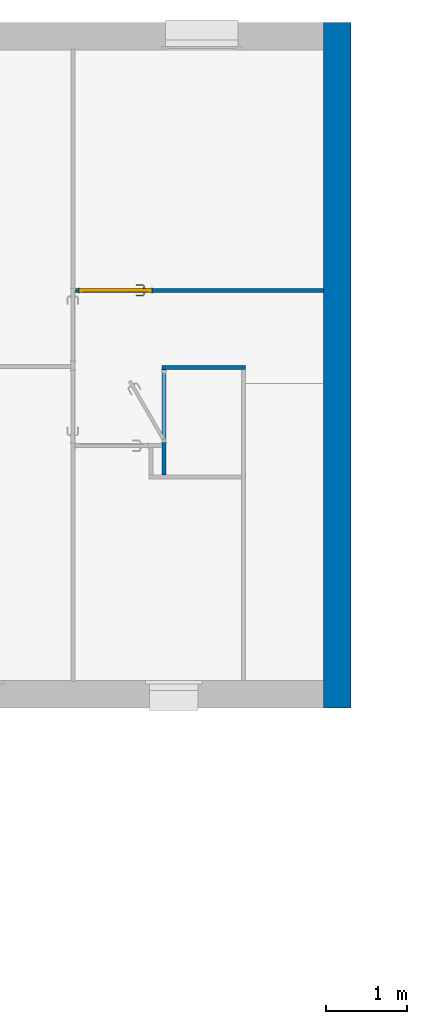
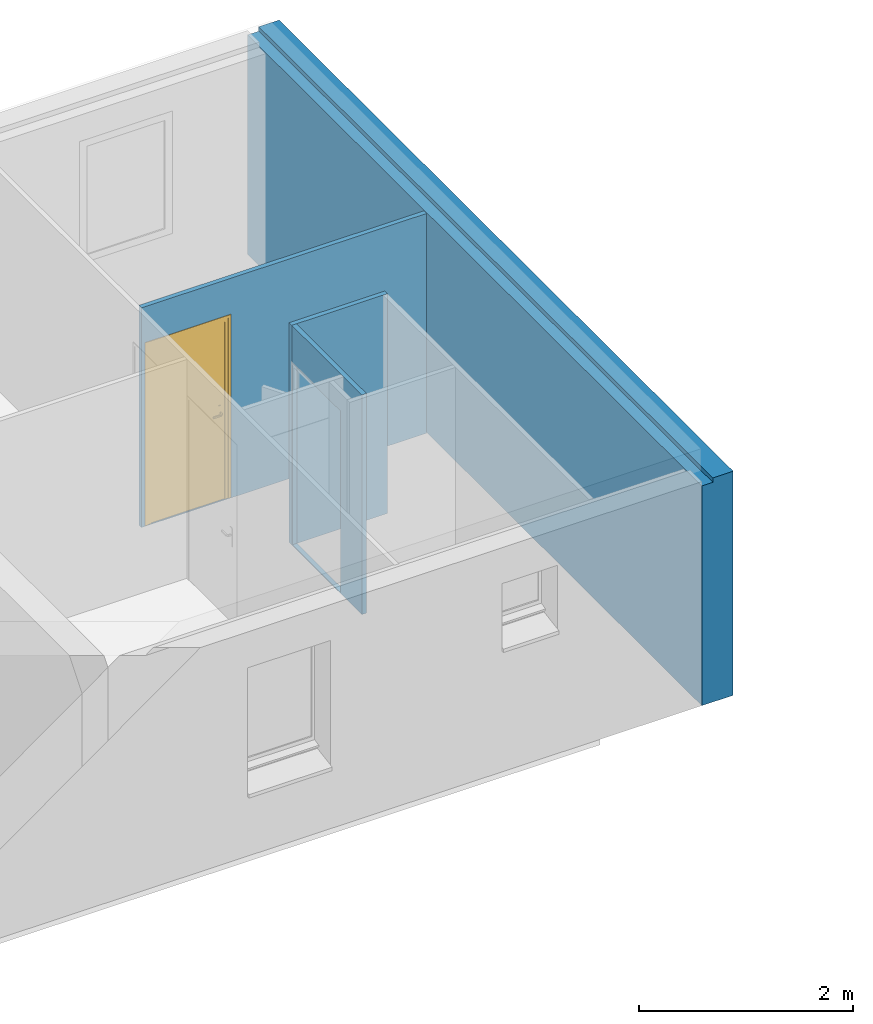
# One storey, part 10 of 13: 4 walls, 1 door, 2 openings.
"""IFC2X3 building model written with IfcOpenShell, lengths in metres."""

from ifc_helpers import new_model, entity, si_unit, converted_unit, derived_unit, direction, frame, frame_2d, origin, place, context, subcontext, project, spatial, polyline, rectangle, extrude, clip, bounded_halfspace, faceted_brep, source, transform, mapped, material, material_list, layer, layer_set, layer_usage, type_object, type_shapes, element, fill, save


model = new_model("IFC2X3")

# Units and contexts
model_context = context("Model", 3, precision=1e-05, world=origin(), true_north=direction((6.12303176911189e-17, 1.0)))
context_of_model = context(None, 3, precision=1e-05, world=origin(), true_north=direction((6.12303176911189e-17, 1.0)))
body_context = subcontext(model_context, "Body", "Model", "MODEL_VIEW")
ifc_project = project(units=[si_unit("LENGTHUNIT", "METRE"), si_unit("AREAUNIT", "SQUARE_METRE"), si_unit("VOLUMEUNIT", "CUBIC_METRE"), converted_unit("PLANEANGLEUNIT", "DEGREE", entity("IfcRatioMeasure", 0.0174532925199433), si_unit("PLANEANGLEUNIT", "RADIAN"), dimensions=[0, 0, 0, 0, 0, 0, 0]), si_unit("MASSUNIT", "GRAM", prefix="KILO"), si_unit("TIMEUNIT", "SECOND"), si_unit("FREQUENCYUNIT", "HERTZ"), si_unit("THERMODYNAMICTEMPERATUREUNIT", "DEGREE_CELSIUS"), derived_unit("THERMALTRANSMITTANCEUNIT", [(si_unit("MASSUNIT", "GRAM", prefix="KILO"), 1), (si_unit("THERMODYNAMICTEMPERATUREUNIT", "KELVIN"), -1), (si_unit("TIMEUNIT", "SECOND"), -3)]), derived_unit("VOLUMETRICFLOWRATEUNIT", [(si_unit("LENGTHUNIT", "METRE"), 3), (si_unit("TIMEUNIT", "SECOND"), -1)]), si_unit("ELECTRICCURRENTUNIT", "AMPERE"), si_unit("ELECTRICVOLTAGEUNIT", "VOLT"), si_unit("POWERUNIT", "WATT"), si_unit("FORCEUNIT", "NEWTON", prefix="KILO"), si_unit("ILLUMINANCEUNIT", "LUX"), si_unit("LUMINOUSFLUXUNIT", "LUMEN"), si_unit("LUMINOUSINTENSITYUNIT", "CANDELA"), derived_unit("USERDEFINED", [(si_unit("MASSUNIT", "GRAM", prefix="KILO"), -1), (si_unit("LENGTHUNIT", "METRE"), -2), (si_unit("TIMEUNIT", "SECOND"), 3), (si_unit("LUMINOUSFLUXUNIT", "LUMEN"), 1)]), derived_unit("LINEARVELOCITYUNIT", [(si_unit("LENGTHUNIT", "METRE"), 1), (si_unit("TIMEUNIT", "SECOND"), -1)]), si_unit("PRESSUREUNIT", "PASCAL"), derived_unit("USERDEFINED", [(si_unit("LENGTHUNIT", "METRE"), -2), (si_unit("MASSUNIT", "GRAM", prefix="KILO"), 1), (si_unit("TIMEUNIT", "SECOND"), -2)])], contexts=[model_context, context_of_model])

# Site, building, storey
site_placement = place(None, origin())
site = spatial("IfcSite", under=ifc_project, at=site_placement, Name="Surface", CompositionType="ELEMENT")
building_placement = place(site_placement, origin())
building = spatial("IfcBuilding", under=site, at=building_placement, CompositionType="ELEMENT")
storey_placement = place(building_placement, frame((0.0, 0.0, 2.74)))
storey = spatial("IfcBuildingStorey", under=building, at=storey_placement, Name="Plan étage", CompositionType="ELEMENT", Elevation=2.74)

# Wall, opening, door
ifc_material_1 = material(Name="Maçonnerie - Isolant(1)")
ifc_layer_1 = layer(ifc_material_1, 0.05)
ifc_layer_set_1 = layer_set([ifc_layer_1], Name="Mur de base:Int. plâtre 50 mm")
ifc_layer_usage_1 = layer_usage(ifc_layer_set_1, "AXIS2", "NEGATIVE", 0.025)
wall_type_1 = type_object("IfcWallType", Name="Mur de base:Int. plâtre 50 mm", PredefinedType="STANDARD", material=ifc_layer_set_1)
wall_1_placement = place(storey_placement, frame((-1.65608881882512, 2.35925578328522, -0.00999999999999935)))
wall_1 = element("IfcWallStandardCase", 1, at=wall_1_placement, inside=storey, type_object=wall_type_1, material=ifc_layer_usage_1, Name="Mur de base:Int. plâtre 50 mm", ObjectType="Mur de base:Int. plâtre 50 mm", context=body_context, shape_type="SweptSolid", body=[
    extrude(rectangle(XDim=3.07999999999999, YDim=0.05, at=frame_2d((1.53999999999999, 0.0), x_axis=(-1.0, 0.0))), origin(), (0.0, 0.0, 1.0), 2.51),
])
opening_1_placement = place(wall_1_placement, frame((0.0499999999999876, -0.025, 0.00999999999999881)))
opening_1 = element("IfcOpeningElement", 2, at=opening_1_placement, cuts=wall_1, Name="Int. Simple:PP (0.83m x 2.04m):1", ObjectType="Opening", context=body_context, shape_type="SweptSolid", body=[
    extrude(rectangle(XDim=2.075, YDim=0.9, at=frame_2d((1.0375, 0.45), x_axis=(1.0, 0.0))), frame((0.0, 0.0, 0.0), z_axis=(0.0, 1.0, 0.0), x_axis=(0.0, 0.0, 1.0)), (0.0, 0.0, 1.0), 0.05),
])
ifc_material_2 = material(Name="Finition Peinture - Blanc satiné")
ifc_material_3 = material(Name="Bois - Panneau de porte")
ifc_material_4 = material(Name="Bois - Cadre de porte")
ifc_material_list_1 = material_list([ifc_material_2, ifc_material_3, ifc_material_4])
ifc_material_list_2 = material_list([ifc_material_2, ifc_material_3, ifc_material_4])
door_style = type_object("IfcDoorStyle", Name="PP (0.83m x 2.04m)", ConstructionType="NOTDEFINED", OperationType="SINGLE_SWING_LEFT", ParameterTakesPrecedence=False, Sizeable=False, material=ifc_material_list_2)
shared_shape = source(origin(), body_context, "Body", "Brep", [
    faceted_brep([(0.105352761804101, -0.00500000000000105, 0.866003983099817), (0.115, -0.00500000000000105, 0.870000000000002), (0.114999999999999, -0.00500000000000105, 1.08), (0.1053527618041, -0.00500000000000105, 1.08399601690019), (0.0949999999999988, -0.00500000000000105, 1.08535898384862), (0.0846472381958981, -0.00500000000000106, 1.08399601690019), (0.0749999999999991, -0.00500000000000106, 1.08), (0.0750000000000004, -0.00500000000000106, 0.870000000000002), (0.0846472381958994, -0.00500000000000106, 0.866003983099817), (0.0950000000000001, -0.00500000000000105, 0.86464101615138), (0.1053527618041, 0.0, 1.08399601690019), (0.114999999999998, 0.0, 1.08), (0.115, 0.0, 0.870000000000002), (0.105352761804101, 0.0, 0.866003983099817), (0.0950000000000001, 0.0, 0.86464101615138), (0.0846472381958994, 0.0, 0.866003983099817), (0.0749999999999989, 0.0, 0.870000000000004), (0.0749999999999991, 0.0, 1.08), (0.0846472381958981, 0.0, 1.08399601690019), (0.0949999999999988, 0.0, 1.08535898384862)], [[[0, 1, 2, 3, 4, 5, 6, 7, 8, 9]], [[10, 11, 12, 13, 14, 15, 16, 17, 18, 19]], [[16, 15, 8, 7]], [[8, 15, 14, 9]], [[14, 13, 0, 9]], [[13, 12, 1, 0]], [[2, 1, 12, 11]], [[11, 10, 3, 2]], [[3, 10, 19, 4]], [[19, 18, 5, 4]], [[18, 17, 6, 5]], [[7, 6, 17, 16]]]),
    faceted_brep([(0.105352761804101, 0.0399999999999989, 0.866003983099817), (0.115, 0.0399999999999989, 0.870000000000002), (0.114999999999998, 0.0399999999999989, 1.08), (0.105352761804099, 0.0399999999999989, 1.08399601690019), (0.0949999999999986, 0.0399999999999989, 1.08535898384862), (0.084647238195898, 0.0399999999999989, 1.08399601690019), (0.0749999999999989, 0.0399999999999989, 1.08), (0.0750000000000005, 0.0399999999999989, 0.870000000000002), (0.0846472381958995, 0.0399999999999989, 0.866003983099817), (0.0950000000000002, 0.0399999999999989, 0.86464101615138), (0.105352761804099, 0.0449999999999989, 1.08399601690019), (0.114999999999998, 0.0449999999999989, 1.08), (0.115, 0.0449999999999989, 0.870000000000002), (0.105352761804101, 0.0449999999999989, 0.866003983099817), (0.0950000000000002, 0.0449999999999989, 0.86464101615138), (0.0846472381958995, 0.0449999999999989, 0.866003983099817), (0.0749999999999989, 0.0449999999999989, 0.870000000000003), (0.0749999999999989, 0.0449999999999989, 1.08), (0.084647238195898, 0.0449999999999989, 1.08399601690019), (0.0949999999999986, 0.0449999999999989, 1.08535898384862)], [[[0, 1, 2, 3, 4, 5, 6, 7, 8, 9]], [[10, 11, 12, 13, 14, 15, 16, 17, 18, 19]], [[11, 10, 3, 2]], [[3, 10, 19, 4]], [[19, 18, 5, 4]], [[18, 17, 6, 5]], [[7, 6, 17, 16]], [[16, 15, 8, 7]], [[8, 15, 14, 9]], [[14, 13, 0, 9]], [[13, 12, 1, 0]], [[2, 1, 12, 11]]]),
    faceted_brep([(0.0929747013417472, -0.00500000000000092, 1.00778044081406), (0.0970252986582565, -0.0050000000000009, 1.00778044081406), (0.101000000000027, -0.00500000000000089, 1.00699999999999), (0.101000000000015, -0.00500000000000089, 0.993000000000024), (0.0970252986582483, -0.0050000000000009, 0.992219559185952), (0.0929747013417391, -0.00500000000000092, 0.99221955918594), (0.0889999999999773, -0.00500000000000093, 0.992999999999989), (0.0889999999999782, -0.00500000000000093, 1.007), (0.0889999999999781, -0.0326509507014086, 1.007), (0.092974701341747, -0.0310045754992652, 1.00778044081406), (0.10902358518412, -0.0470534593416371, 1.00778044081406), (0.110701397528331, -0.0430028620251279, 1.00778044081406), (0.0970252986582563, -0.0293267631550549, 1.00778044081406), (0.101000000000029, -0.0276803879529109, 1.007), (0.101000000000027, -0.0276803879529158, 0.993000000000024), (0.0970252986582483, -0.0293267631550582, 0.992219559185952), (0.110701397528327, -0.0430028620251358, 0.992219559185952), (0.109023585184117, -0.047053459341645, 0.99221955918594), (0.0929747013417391, -0.0310045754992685, 0.99221955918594), (0.0889999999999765, -0.0326509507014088, 0.992999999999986), (0.107377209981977, -0.0510281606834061, 1.007), (0.112347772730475, -0.0390281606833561, 1.007), (0.112347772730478, -0.0390281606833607, 0.993000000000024), (0.107377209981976, -0.0510281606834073, 0.992999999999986), (0.195018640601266, -0.0510281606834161, 0.992999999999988), (0.195018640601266, -0.0470534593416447, 0.99221955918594), (0.195018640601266, -0.0430028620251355, 0.992219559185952), (0.195018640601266, -0.039028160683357, 0.993000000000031), (0.195018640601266, -0.0390281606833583, 1.007), (0.195018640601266, -0.0430028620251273, 1.00778044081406), (0.195018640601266, -0.0470534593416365, 1.00778044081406), (0.195018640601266, -0.0510281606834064, 1.00699999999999), (0.147307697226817, -0.0510281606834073, 1.007), (0.152860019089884, -0.045028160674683, 1.0078786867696), (0.15368320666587, -0.039028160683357, 1.007), (0.153683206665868, -0.0390281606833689, 0.993000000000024), (0.152860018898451, -0.0450281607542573, 0.992121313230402), (0.147307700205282, -0.0510281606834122, 0.992999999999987)], [[[0, 1, 2, 3, 4, 5, 6, 7]], [[8, 9, 0, 7]], [[9, 10, 11, 12, 1, 0]], [[12, 13, 2, 1]], [[3, 2, 13, 14]], [[14, 15, 4, 3]], [[15, 16, 17, 18, 5, 4]], [[18, 19, 6, 5]], [[7, 6, 19, 8]], [[20, 10, 9, 8]], [[11, 21, 13, 12]], [[14, 13, 21, 22]], [[22, 16, 15, 14]], [[17, 23, 19, 18]], [[8, 19, 23, 20]], [[24, 25, 26, 27, 28, 29, 30, 31]], [[32, 30, 33]], [[31, 30, 32]], [[10, 20, 32]], [[33, 34, 11]], [[21, 11, 34]], [[34, 29, 28]], [[30, 29, 33]], [[29, 34, 33]], [[10, 32, 33]], [[10, 33, 11]], [[22, 21, 34, 28, 27, 35]], [[35, 26, 36]], [[37, 36, 25]], [[22, 35, 16]], [[35, 27, 26]], [[24, 37, 25]], [[23, 17, 37]], [[37, 17, 36]], [[17, 16, 36]], [[16, 35, 36]], [[25, 36, 26]], [[20, 23, 37, 24, 31, 32]]]),
    faceted_brep([(0.0929747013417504, 0.0449999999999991, 1.00778044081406), (0.0889999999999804, 0.044999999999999, 1.007), (0.0889999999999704, 0.044999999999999, 0.992999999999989), (0.0929747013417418, 0.0449999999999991, 0.99221955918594), (0.0970252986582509, 0.0449999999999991, 0.992219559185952), (0.10100000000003, 0.0449999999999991, 0.993000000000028), (0.101000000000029, 0.0449999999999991, 1.007), (0.0970252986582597, 0.0449999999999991, 1.00778044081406), (0.10100000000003, 0.067485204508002, 0.993000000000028), (0.10100000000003, 0.0674852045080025, 1.007), (0.0970252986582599, 0.0691315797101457, 1.00778044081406), (0.110838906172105, 0.0829451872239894, 1.00778044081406), (0.109161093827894, 0.0869957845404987, 1.00778044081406), (0.0929747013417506, 0.070809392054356, 1.00778044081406), (0.0889999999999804, 0.0724557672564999, 1.007), (0.0889999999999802, 0.072455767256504, 0.992999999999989), (0.0929747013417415, 0.0708093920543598, 0.99221955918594), (0.109161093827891, 0.0869957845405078, 0.99221955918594), (0.110838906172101, 0.0829451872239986, 0.992219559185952), (0.0970252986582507, 0.0691315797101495, 0.992219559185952), (0.112485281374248, 0.0789704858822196, 0.993000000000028), (0.112485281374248, 0.0789704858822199, 1.007), (0.107514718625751, 0.0909704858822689, 1.007), (0.107514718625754, 0.090970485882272, 0.992999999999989), (0.195045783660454, 0.0789704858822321, 0.993000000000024), (0.195045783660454, 0.0829451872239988, 0.992219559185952), (0.195045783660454, 0.086995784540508, 0.99221955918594), (0.195045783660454, 0.0909704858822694, 0.992999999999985), (0.195045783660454, 0.0909704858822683, 1.007), (0.195045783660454, 0.0869957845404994, 1.00778044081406), (0.195045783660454, 0.0829451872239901, 1.00778044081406), (0.195045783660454, 0.0789704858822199, 1.007), (0.153765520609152, 0.0789704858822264, 0.993000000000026), (0.153765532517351, 0.0789704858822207, 1.007), (0.152942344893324, 0.0849704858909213, 1.0078786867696), (0.147445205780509, 0.0909704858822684, 1.007), (0.147445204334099, 0.0909704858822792, 0.992999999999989), (0.152942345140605, 0.0849704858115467, 0.992121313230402)], [[[0, 1, 2, 3, 4, 5, 6, 7]], [[6, 5, 8, 9]], [[9, 10, 7, 6]], [[10, 11, 12, 13, 0, 7]], [[13, 14, 1, 0]], [[2, 1, 14, 15]], [[15, 16, 3, 2]], [[16, 17, 18, 19, 4, 3]], [[19, 8, 5, 4]], [[9, 8, 20, 21]], [[21, 11, 10, 9]], [[12, 22, 14, 13]], [[15, 14, 22, 23]], [[23, 17, 16, 15]], [[18, 20, 8, 19]], [[24, 25, 26, 27, 28, 29, 30, 31]], [[21, 20, 32, 24, 31, 33]], [[33, 30, 34]], [[35, 34, 29]], [[21, 33, 11]], [[33, 31, 30]], [[28, 35, 29]], [[22, 12, 35]], [[35, 12, 34]], [[12, 11, 34]], [[11, 33, 34]], [[29, 34, 30]], [[22, 35, 28, 27, 36, 23]], [[36, 26, 37]], [[27, 26, 36]], [[17, 23, 36]], [[37, 32, 18]], [[20, 18, 32]], [[32, 25, 24]], [[26, 25, 37]], [[25, 32, 37]], [[17, 36, 37]], [[17, 37, 18]]]),
    faceted_brep([(0.034999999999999, 0.04, 2.04), (0.865, 0.04, 2.04), (0.864999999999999, 0.04, 0.0), (0.034999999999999, 0.04, 0.0), (0.034999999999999, 0.0, 2.04), (0.034999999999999, 0.0, 0.0), (0.864999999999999, 0.0, 0.0), (0.865, 0.0, 2.04)], [[[0, 1, 2, 3]], [[4, 5, 6, 7]], [[1, 0, 4, 7]], [[2, 1, 7, 6]], [[3, 2, 6, 5]], [[0, 3, 5, 4]]]),
    faceted_brep([(0.0, 0.0, 0.0), (0.0, 0.050000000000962, 0.0), (0.0499999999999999, 0.050000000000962, 0.0), (0.0499999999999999, 0.040000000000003, 0.0), (0.0349999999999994, 0.040000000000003, 0.0), (0.0349999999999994, 0.0, 0.0), (0.0, 0.0, 2.07500000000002), (0.0, 0.050000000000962, 2.07500000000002), (0.900000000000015, 0.050000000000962, 2.07500000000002), (0.900000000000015, 0.050000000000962, 0.0), (0.85, 0.050000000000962, 0.0), (0.85, 0.050000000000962, 2.025), (0.0500000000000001, 0.050000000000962, 2.025), (0.05, 0.040000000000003, 2.025), (0.85, 0.040000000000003, 2.025), (0.85, 0.040000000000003, 0.0), (0.865, 0.040000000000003, 0.0), (0.865, 0.040000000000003, 2.04), (0.0349999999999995, 0.040000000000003, 2.04), (0.0349999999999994, 0.0, 2.04), (0.865, 0.0, 2.04), (0.865, 0.0, 0.0), (0.900000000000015, 0.0, 0.0), (0.900000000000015, 0.0, 2.07500000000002)], [[[0, 1, 2, 3, 4, 5]], [[1, 0, 6, 7]], [[2, 1, 7, 8, 9, 10, 11, 12]], [[3, 2, 12, 13]], [[4, 3, 13, 14, 15, 16, 17, 18]], [[5, 4, 18, 19]], [[0, 5, 19, 20, 21, 22, 23, 6]], [[8, 23, 22, 9]], [[22, 21, 16, 15, 10, 9]], [[14, 11, 10, 15]], [[20, 17, 16, 21]], [[7, 6, 23, 8]], [[13, 12, 11, 14]], [[19, 18, 17, 20]]]),
    faceted_brep([(0.0149999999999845, 0.050000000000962, 0.0), (-0.0150000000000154, 0.050000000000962, 0.0), (-0.0150000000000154, 0.055000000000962, 0.0), (0.0149999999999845, 0.055000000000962, 0.0), (0.0149999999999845, 0.050000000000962, 2.06000000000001), (0.884999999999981, 0.050000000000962, 2.06000000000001), (0.88499999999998, 0.050000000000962, 0.0), (0.91499999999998, 0.050000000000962, 0.0), (0.91499999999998, 0.050000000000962, 2.09000000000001), (-0.0150000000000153, 0.050000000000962, 2.09000000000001), (-0.0150000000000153, 0.055000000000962, 2.09000000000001), (0.91499999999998, 0.055000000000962, 2.09000000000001), (0.91499999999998, 0.055000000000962, 0.0), (0.88499999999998, 0.055000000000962, 0.0), (0.88499999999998, 0.055000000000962, 2.06000000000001), (0.0149999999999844, 0.055000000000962, 2.06000000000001)], [[[0, 1, 2, 3]], [[1, 0, 4, 5, 6, 7, 8, 9]], [[2, 1, 9, 10]], [[3, 2, 10, 11, 12, 13, 14, 15]], [[0, 3, 15, 4]], [[6, 13, 12, 7]], [[5, 14, 13, 6]], [[11, 8, 7, 12]], [[10, 9, 8, 11]], [[4, 15, 14, 5]]]),
    faceted_brep([(-0.0150000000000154, -0.005, 0.0), (0.0149999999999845, -0.005, 0.0), (0.0149999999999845, -0.005, 2.06000000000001), (0.884999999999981, -0.005, 2.06000000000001), (0.88499999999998, -0.005, 0.0), (0.91499999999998, -0.005, 0.0), (0.91499999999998, -0.005, 2.09000000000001), (-0.0150000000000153, -0.005, 2.09000000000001), (-0.0150000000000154, 0.0, 0.0), (-0.0150000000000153, 0.0, 2.09000000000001), (0.0149999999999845, 0.0, 0.0), (0.91499999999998, 0.0, 2.09000000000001), (0.91499999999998, 0.0, 0.0), (0.88499999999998, 0.0, 0.0), (0.88499999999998, 0.0, 2.06000000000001), (0.0149999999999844, 0.0, 2.06000000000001)], [[[0, 1, 2, 3, 4, 5, 6, 7]], [[8, 0, 7, 9]], [[10, 8, 9, 11, 12, 13, 14, 15]], [[1, 10, 15, 2]], [[3, 14, 13, 4]], [[11, 6, 5, 12]], [[9, 7, 6, 11]], [[2, 15, 14, 3]], [[4, 13, 12, 5]], [[1, 0, 8, 10]]]),
])
type_shapes(door_style, [shared_shape])
door_placement = place(opening_1_placement, frame((0.9, 0.0500000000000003, 0.0), z_axis=(0.0, 0.0, 1.0), x_axis=(-1.0, 0.0, 0.0)))
door = element("IfcDoor", 3, at=door_placement, inside=storey, type_object=door_style, material=ifc_material_list_1, Name="Int. Simple:PP (0.83m x 2.04m)", ObjectType="PP (0.83m x 2.04m)", OverallHeight=2.075, OverallWidth=0.9, context=body_context, shape_type="MappedRepresentation", body=[
    mapped(shared_shape, transform((0.0, 0.0, 0.0), scale=1.0)),
])
fill(opening_1, door)

# Wall
ifc_layer_usage_2 = layer_usage(ifc_layer_set_1, "AXIS2", "NEGATIVE", 0.025)
wall_2_placement = place(storey_placement, frame((-0.581088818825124, 1.40925578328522, -0.00999999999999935)))
element("IfcWallStandardCase", 4, at=wall_2_placement, inside=storey, type_object=wall_type_1, material=ifc_layer_usage_2, Name="Mur de base:Int. plâtre 50 mm", ObjectType="Mur de base:Int. plâtre 50 mm", context=body_context, shape_type="SweptSolid", body=[
    extrude(rectangle(XDim=1.03499999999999, YDim=0.05, at=frame_2d((0.517499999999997, 0.0), x_axis=(-1.0, 0.0))), origin(), (0.0, 0.0, 1.0), 2.51),
])

# Wall, opening
ifc_layer_usage_3 = layer_usage(ifc_layer_set_1, "AXIS2", "NEGATIVE", 0.025)
wall_3_placement = place(storey_placement, frame((-0.556088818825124, 0.0742557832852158, -0.00999999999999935), z_axis=(0.0, 0.0, 1.0), x_axis=(0.0, 1.0, 0.0)))
wall_3 = element("IfcWallStandardCase", 5, at=wall_3_placement, inside=storey, type_object=wall_type_1, material=ifc_layer_usage_3, Name="Mur de base:Int. plâtre 50 mm", ObjectType="Mur de base:Int. plâtre 50 mm", context=body_context, shape_type="SweptSolid", body=[
    extrude(rectangle(XDim=1.31, YDim=0.05, at=frame_2d((0.655000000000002, 0.0), x_axis=(-1.0, 0.0))), origin(), (0.0, 0.0, 1.0), 2.51),
])
opening_2_placement = place(wall_3_placement, frame((0.400000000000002, -0.025, 0.00999999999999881)))
element("IfcOpeningElement", 6, at=opening_2_placement, cuts=wall_3, Name="Int. Simple:PP (0.83m x 2.04m):1", ObjectType="Opening", context=body_context, shape_type="SweptSolid", body=[
    extrude(rectangle(XDim=2.075, YDim=0.9, at=frame_2d((1.0375, 0.45), x_axis=(1.0, 0.0))), frame((0.0, 0.0, 0.0), z_axis=(0.0, 1.0, 0.0), x_axis=(0.0, 0.0, 1.0)), (0.0, 0.0, 1.0), 0.05),
])

# Wall
ifc_material_5 = material(Name="Maçonnerie - Enduit")
ifc_layer_2 = layer(ifc_material_5, 0.02)
ifc_material_6 = material(Name="Maçonnerie - Parpaing")
ifc_layer_3 = layer(ifc_material_6, 0.2)
ifc_material_7 = material(Name="Maçonnerie - Isolant")
ifc_layer_4 = layer(ifc_material_7, 0.11)
ifc_material_8 = material(Name="Maçonnerie - Isolant 1")
ifc_layer_5 = layer(ifc_material_8, 0.01)
ifc_layer_set_2 = layer_set([ifc_layer_2, ifc_layer_3, ifc_layer_4, ifc_layer_5], Name="Mur de base:Mur de base Ext. Parpaing 20 + Isolant 12")
ifc_layer_usage_4 = layer_usage(ifc_layer_set_2, "AXIS2", "NEGATIVE", 0.17)
wall_type_2 = type_object("IfcWallType", Name="Mur de base:Mur de base Ext. Parpaing 20 + Isolant 12", PredefinedType="STANDARD", material=ifc_layer_set_2)
wall_4_placement = place(storey_placement, frame((1.59391118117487, 5.68425578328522, 0.0), z_axis=(0.0, 0.0, 1.0), x_axis=(0.0, -1.0, 0.0)))
element("IfcWallStandardCase", 7, at=wall_4_placement, inside=storey, type_object=wall_type_2, material=ifc_layer_usage_4, Name="Mur de base:Mur de base Ext. Parpaing 20 + Isolant 12", ObjectType="Mur de base:Mur de base Ext. Parpaing 20 + Isolant 12", context=body_context, shape_type="Clipping", body=[
    clip(extrude(rectangle(XDim=8.50000000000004, YDim=0.34, at=frame_2d((4.25000000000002, 0.0), x_axis=(-1.0, 0.0))), origin(), (0.0, 0.0, 1.0), 2.56), bounded_halfspace(frame((0.0, -0.17, 2.51), z_axis=(0.0, 0.0, 1.0), x_axis=(0.0, 1.0, 0.0)), False, frame((0.0, -0.17, 2.51)), polyline([(0.0, 0.0), (8.50000000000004, 0.0), (8.50000000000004, 0.12), (0.0, 0.12), (0.0, 0.0)]))),
])

save(model, "model.ifc")
